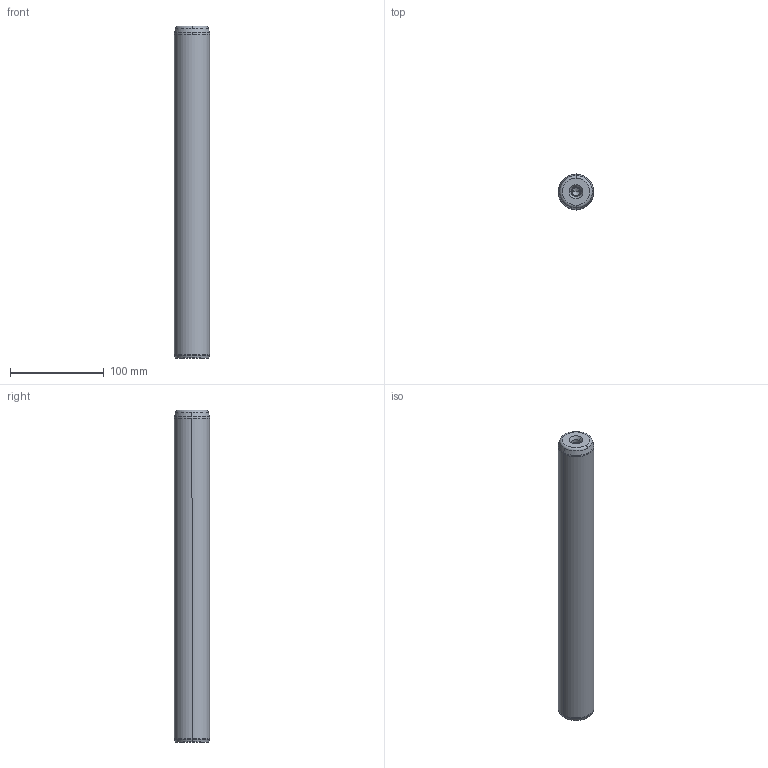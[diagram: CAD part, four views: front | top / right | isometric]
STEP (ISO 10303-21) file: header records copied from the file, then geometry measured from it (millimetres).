
FILE_DESCRIPTION((''),'2;1');
FILE_NAME('P10_038_355.stp','2008-12-23T15:16:07',(''),(''),'Mechanical Desktop 2009','Mechanical Desktop 2009',', , ');
FILE_SCHEMA(('CONFIG_CONTROL_DESIGN'));
Length unit declared in the file: millimetre
Products named in the file (5): Product; ProductAA; blmdl1; ProductA; blmdl1A
Assembly tree (2 placements, depth 3):
  Product
    ProductAA
      blmdl1
  ProductA
  blmdl1A
Bounding box: 38 x 38 x 355 mm (x, y, z)
Volume: 399177.6 mm3; surface area: 45000.4 mm2
Topology: 1 solids, 1 shells, 26 faces, 66 edges, 41 vertices
Faces by surface type: cone 10, torus 8, cylinder 6, plane 2
Entity records: 1012 total; most frequent: DIRECTION 170, CARTESIAN_POINT 134, ORIENTED_EDGE 128, AXIS2_PLACEMENT_3D 77, EDGE_CURVE 64, CIRCLE 48, VERTEX_POINT 41, EDGE_LOOP 27
